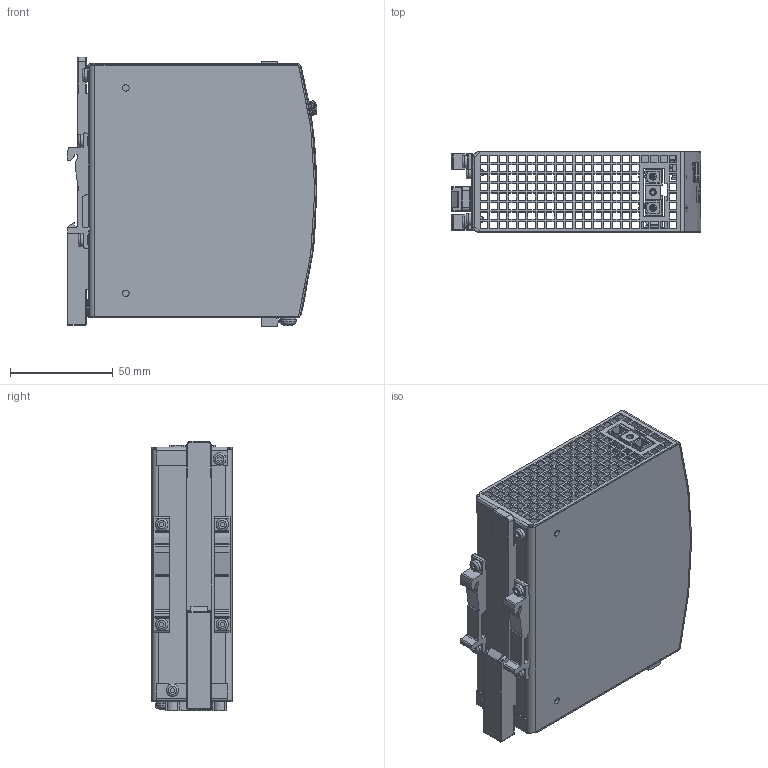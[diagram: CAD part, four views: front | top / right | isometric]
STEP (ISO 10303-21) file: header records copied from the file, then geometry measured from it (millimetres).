
FILE_DESCRIPTION(/* description */ (''),/* implementation_level */ '2;1');
FILE_NAME(/* name */ 'L:\MKT-GER\Neue Webdokumente\Daten von KO\CP10.241-R2-C1 (410.16)\md3_cp10.241-r2-c1.stp',/* time_stamp */ '2017-12-22T10:44:32+01:00',/* author */ ('rahns'),/* organization */ (''),/* preprocessor_version */ 'ST-DEVELOPER v17',/* originating_system */ 'Autodesk Inventor 2018',/* authorisation */ '');
FILE_SCHEMA (('CONFIG_CONTROL_DESIGN'));
Products named in the file (14): 410.12; HOUSING BODY 410.00; HOUSING COVER 410.12; FRONTFOIL 410.12; MKT_SLIDER; MKT_T HOLDER; MKT_SCREW 3x6; MKT_SCREW 4x8; MKT_WASHER 4; MKT_LED GN; MKT_1X2A-H9; MKT_1X3A-47; MKT_1X2A-47; MKT_POTI COVER
Assembly tree (19 placements, depth 2):
  410.12
    HOUSING BODY 410.00
    HOUSING COVER 410.12
    FRONTFOIL 410.12
    MKT_SLIDER
    MKT_SCREW 3x6  x6
    MKT_T HOLDER  x2
    MKT_SCREW 4x8
    MKT_WASHER 4
    MKT_LED GN
    MKT_1X2A-H9
    MKT_1X3A-47
    MKT_1X2A-47
    MKT_POTI COVER
Bounding box: 121.66 x 39 x 131.14 mm (x, y, z)
Volume: 72340.1 mm3; surface area: 108582.1 mm2
Topology: 20 solids, 20 shells, 2559 faces, 7323 edges, 4874 vertices
Faces by surface type: plane 2047, cylinder 250, bspline 169, cone 42, torus 38, sphere 13
Full cylindrical faces by diameter (mm): 0.2 x9, 2.013 x2, 2.45 x2, 2.7 x1, 3 x8, 3.1 x4, 3.2 x3, 3.621 x1, 4 x1, 4.355 x1, 4.5 x1, 4.6 x1, 6 x6
Entity records: 87180 total; most frequent: CARTESIAN_POINT 22044, ORIENTED_EDGE 13876, DIRECTION 11907, EDGE_CURVE 6938, LINE 5713, VECTOR 5713, VERTEX_POINT 4610, EDGE_LOOP 3128
